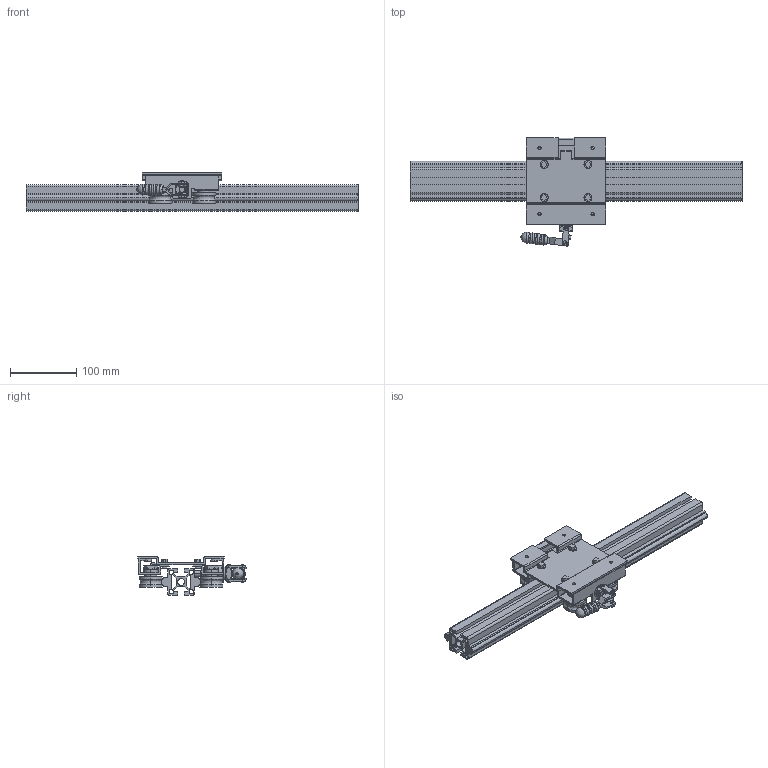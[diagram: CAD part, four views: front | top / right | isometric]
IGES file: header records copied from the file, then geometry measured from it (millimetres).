
Global section: file name: No Iges File Name specified; native system: AutoDesk Inventor R11.0; preprocessor: AutoDesk Inventor Iges Exporter R11.0; author: No Author specified; organization: No Organization specified; date: 20190610.115706; units: millimetre
Bounding box: 500 x 162.95 x 58 mm (x, y, z)
Surface area: 343978.2 mm2 (no closed solid volume)
Topology: 0 solids, 0 shells, 694 faces, 4437 edges, 4413 vertices
Faces by surface type: bspline 694
